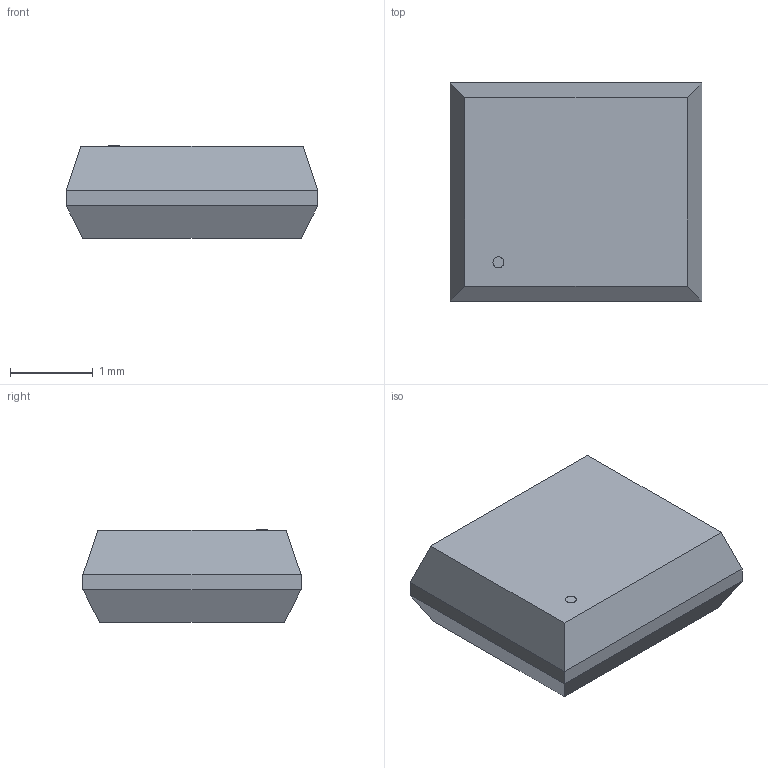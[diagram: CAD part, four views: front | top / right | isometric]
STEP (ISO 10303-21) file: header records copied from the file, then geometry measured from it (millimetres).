
FILE_DESCRIPTION(('STEP AP214'),'1');
FILE_NAME('TNPN_SOT-23_MCC','2023-09-22T11:36:16',(''),(''),'','','');
FILE_SCHEMA(('AUTOMOTIVE_DESIGN'));
Length unit declared in the file: millimetre
Products named in the file (1): product
Bounding box: 3.05 x 2.64 x 1.12 mm (x, y, z)
Volume: 8 mm3; surface area: 24.9 mm2
Topology: 2 solids, 5 shells, 17 faces, 31 edges, 18 vertices
Faces by surface type: plane 16, cylinder 1
Full cylindrical faces by diameter (mm): 0.132 x1
Entity records: 563 total; most frequent: DIRECTION 70, ORIENTED_EDGE 60, CARTESIAN_POINT 39, EDGE_CURVE 30, LINE 28, VECTOR 28, AXIS2_PLACEMENT_3D 21, EDGE_LOOP 18
